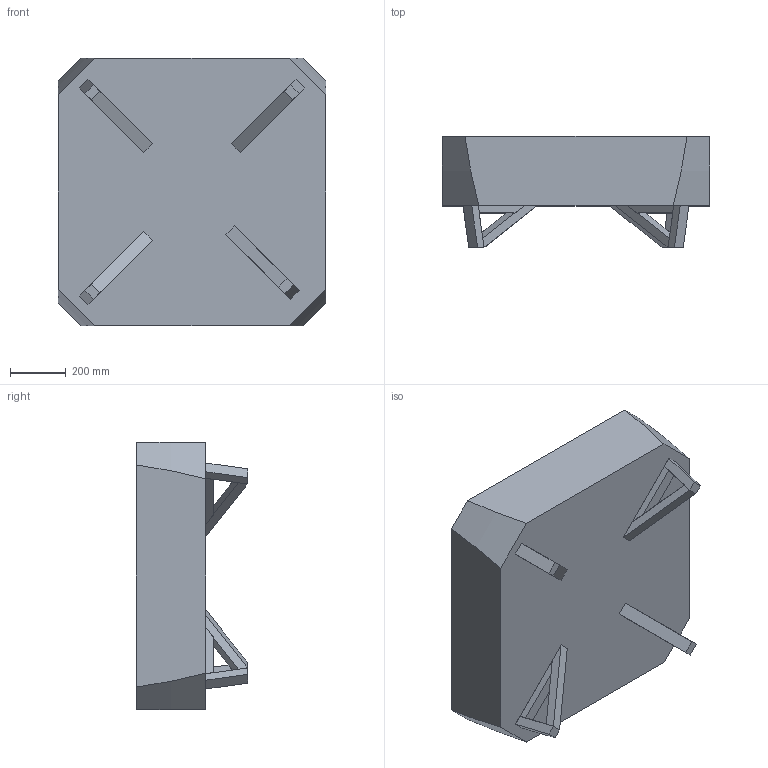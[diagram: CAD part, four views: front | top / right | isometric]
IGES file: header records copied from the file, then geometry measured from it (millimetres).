
Start section: SolidWorks IGES file using analytic representation for surfaces
Global section: file name: P:\3D CAD BLOCKS\us\SQUARE CORNER LINK UNIT\us - SQUARE CORNER LINK UNIT.IGS; native system: SolidWorks 2012; preprocessor: SolidWorks 2012; author: adam; date: 140226.123833; units: millimetre
Bounding box: 964.49 x 400 x 964.49 mm (x, y, z)
Surface area: 3901575 mm2 (no closed solid volume)
Topology: 0 solids, 0 shells, 154 faces, 688 edges, 688 vertices
Faces by surface type: bspline 150, revolution 4
